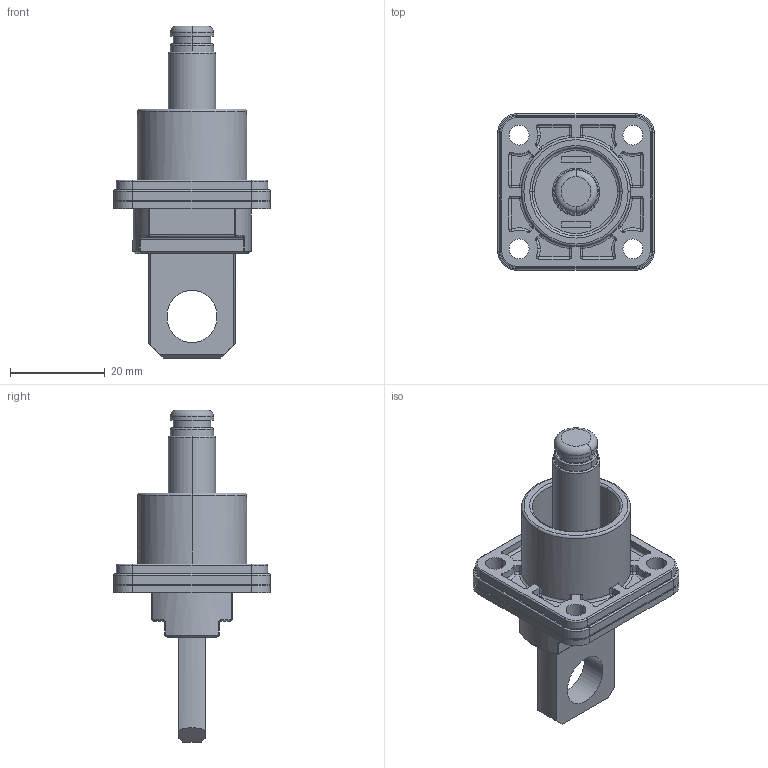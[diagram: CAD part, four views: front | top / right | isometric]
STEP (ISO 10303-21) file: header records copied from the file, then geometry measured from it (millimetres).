
FILE_DESCRIPTION (( 'STEP AP203' ), '1' );
FILE_NAME ('RL9100-20X-F1.STEP', '2015-04-30T06:47:58', ( 'gasf' ), ( '' ), 'SwSTEP 2.0', 'SolidWorks 2012', '' );
FILE_SCHEMA (( 'CONFIG_CONTROL_DESIGN' ));
Length unit declared in the file: millimetre
Products named in the file (1): RL9100-20X-F1
Bounding box: 33 x 33 x 70 mm (x, y, z)
Volume: 14960.7 mm3; surface area: 9576.4 mm2
Topology: 2 solids, 2 shells, 359 faces, 873 edges, 503 vertices
Faces by surface type: cylinder 162, plane 88, torus 53, sphere 45, bspline 8, cone 3
Entity records: 10530 total; most frequent: CARTESIAN_POINT 2016, DIRECTION 1957, ORIENTED_EDGE 1670, EDGE_CURVE 835, AXIS2_PLACEMENT_3D 801, VERTEX_POINT 492, CIRCLE 449, EDGE_LOOP 391
